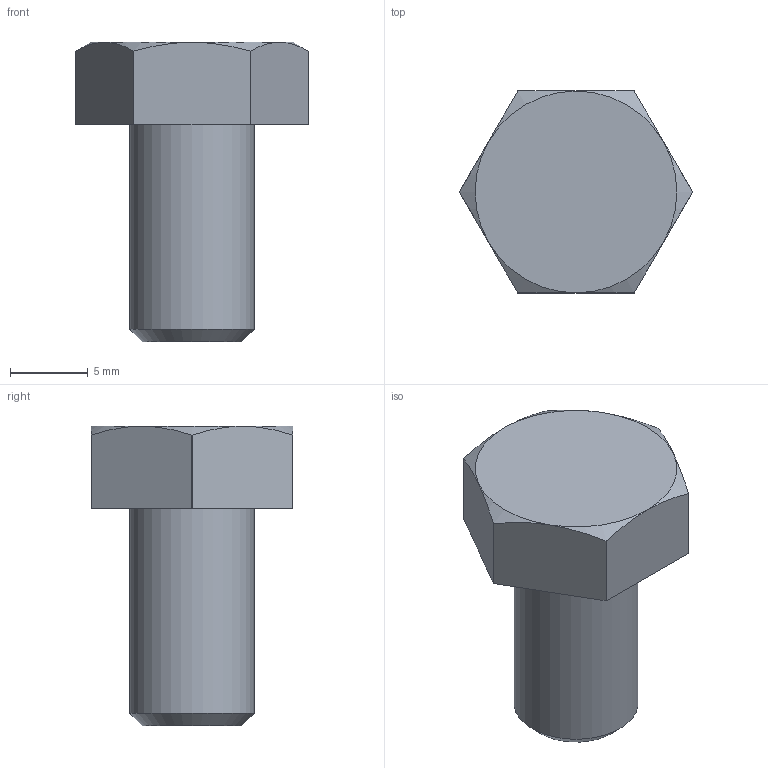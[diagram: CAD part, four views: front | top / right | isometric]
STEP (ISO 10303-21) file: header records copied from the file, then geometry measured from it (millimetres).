
FILE_DESCRIPTION(/* description */ ('STEP AP214'),/* implementation_level */ '2;1');
FILE_NAME(/* name */ 'FlexLink M6S 8X14',/* time_stamp */ '2026-03-29T09:54:29+02:00',/* author */ ('License CC BY-ND 4.0'),/* organization */ ('CADENAS'),/* preprocessor_version */ 'ST-DEVELOPER v20',/* originating_system */ 'PARTsolutions',/* authorisation */ ' ');
FILE_SCHEMA (('AUTOMOTIVE_DESIGN {1 0 10303 214 3 1 1}'));
Length unit declared in the file: millimetre
Products named in the file (1): FlexLink M6S 8X14
Bounding box: 15 x 13 x 19.3 mm (x, y, z)
Volume: 1469.4 mm3; surface area: 863.6 mm2
Topology: 1 solids, 1 shells, 18 faces, 44 edges, 29 vertices
Faces by surface type: plane 9, cylinder 7, cone 2
Full cylindrical faces by diameter (mm): 8 x1
Entity records: 554 total; most frequent: CARTESIAN_POINT 111, DIRECTION 88, ORIENTED_EDGE 80, EDGE_CURVE 40, AXIS2_PLACEMENT_3D 35, VERTEX_POINT 28, EDGE_LOOP 22, FACE_BOUND 22
